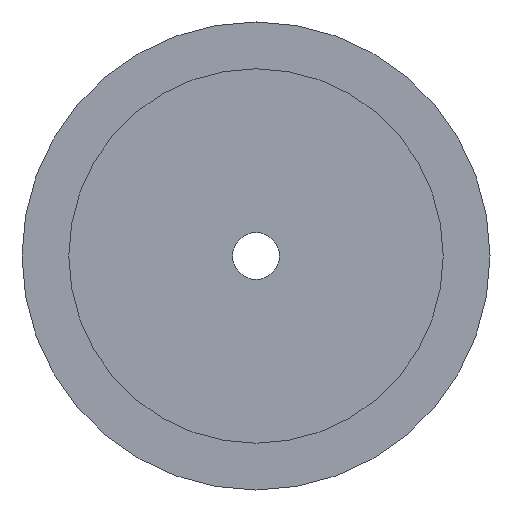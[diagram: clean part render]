
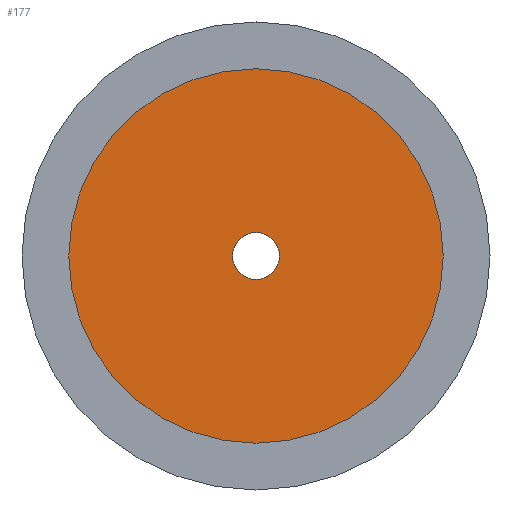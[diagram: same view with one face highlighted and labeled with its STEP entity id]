
A CAD part, left-side view. The second image highlights one B-rep face of the part: STEP entity #177.
In plain terms, the highlighted planar face has unit normal (-1, 0, 0).
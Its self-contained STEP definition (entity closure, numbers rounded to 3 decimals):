
#9 = VERTEX_POINT ( 'NONE', #225 ) ;
#34 = EDGE_CURVE ( 'NONE', #9, #56, #283, .T. ) ;
#56 = VERTEX_POINT ( 'NONE', #498 ) ;
#177 = ADVANCED_FACE ( 'NONE', ( #691, #690 ), #689, .F. ) ;
#185 = ORIENTED_EDGE ( 'NONE', *, *, #856, .T. ) ;
#195 = ORIENTED_EDGE ( 'NONE', *, *, #241, .T. ) ;
#218 = EDGE_CURVE ( 'NONE', #56, #9, #707, .T. ) ;
#219 = ORIENTED_EDGE ( 'NONE', *, *, #34, .F. ) ;
#225 = CARTESIAN_POINT ( 'NONE',  ( 0., 0., -12. ) ) ;
#241 = EDGE_CURVE ( 'NONE', #801, #840, #817, .T. ) ;
#242 = EDGE_LOOP ( 'NONE', ( #243, #219 ) ) ;
#243 = ORIENTED_EDGE ( 'NONE', *, *, #218, .F. ) ;
#244 = EDGE_LOOP ( 'NONE', ( #195, #185 ) ) ;
#279 = CARTESIAN_POINT ( 'NONE',  ( 0., 0., 0. ) ) ;
#280 = AXIS2_PLACEMENT_3D ( 'NONE', #279, #295, #294 ) ;
#283 = CIRCLE ( 'NONE', #280, 12. ) ;
#294 = DIRECTION ( 'NONE',  ( 0., 0., -1. ) ) ;
#295 = DIRECTION ( 'NONE',  ( 1., 0., 0. ) ) ;
#498 = CARTESIAN_POINT ( 'NONE',  ( 0., 0., 12. ) ) ;
#685 = DIRECTION ( 'NONE',  ( 0., 0., -1. ) ) ;
#686 = DIRECTION ( 'NONE',  ( 1., 0., 0. ) ) ;
#687 = CARTESIAN_POINT ( 'NONE',  ( 0., 0., 0. ) ) ;
#688 = AXIS2_PLACEMENT_3D ( 'NONE', #687, #686, #685 ) ;
#689 = PLANE ( 'NONE',  #688 ) ;
#690 = FACE_OUTER_BOUND ( 'NONE', #242, .T. ) ;
#691 = FACE_BOUND ( 'NONE', #244, .T. ) ;
#703 = DIRECTION ( 'NONE',  ( 0., 0., -1. ) ) ;
#704 = DIRECTION ( 'NONE',  ( 1., 0., 0. ) ) ;
#705 = CARTESIAN_POINT ( 'NONE',  ( 0., 0., 0. ) ) ;
#706 = AXIS2_PLACEMENT_3D ( 'NONE', #705, #704, #703 ) ;
#707 = CIRCLE ( 'NONE', #706, 12. ) ;
#753 = CARTESIAN_POINT ( 'NONE',  ( 0., 0., 1.5 ) ) ;
#754 = CARTESIAN_POINT ( 'NONE',  ( 0., 0., -1.5 ) ) ;
#791 = DIRECTION ( 'NONE',  ( 0., 0., -1. ) ) ;
#792 = DIRECTION ( 'NONE',  ( 1., 0., 0. ) ) ;
#793 = CARTESIAN_POINT ( 'NONE',  ( 0., 0., 0. ) ) ;
#794 = AXIS2_PLACEMENT_3D ( 'NONE', #793, #792, #791 ) ;
#795 = CIRCLE ( 'NONE', #794, 1.5 ) ;
#801 = VERTEX_POINT ( 'NONE', #754 ) ;
#809 = DIRECTION ( 'NONE',  ( 0., 0., -1. ) ) ;
#810 = DIRECTION ( 'NONE',  ( 1., 0., 0. ) ) ;
#811 = CARTESIAN_POINT ( 'NONE',  ( 0., 0., 0. ) ) ;
#812 = AXIS2_PLACEMENT_3D ( 'NONE', #811, #810, #809 ) ;
#817 = CIRCLE ( 'NONE', #812, 1.5 ) ;
#840 = VERTEX_POINT ( 'NONE', #753 ) ;
#856 = EDGE_CURVE ( 'NONE', #840, #801, #795, .T. ) ;
